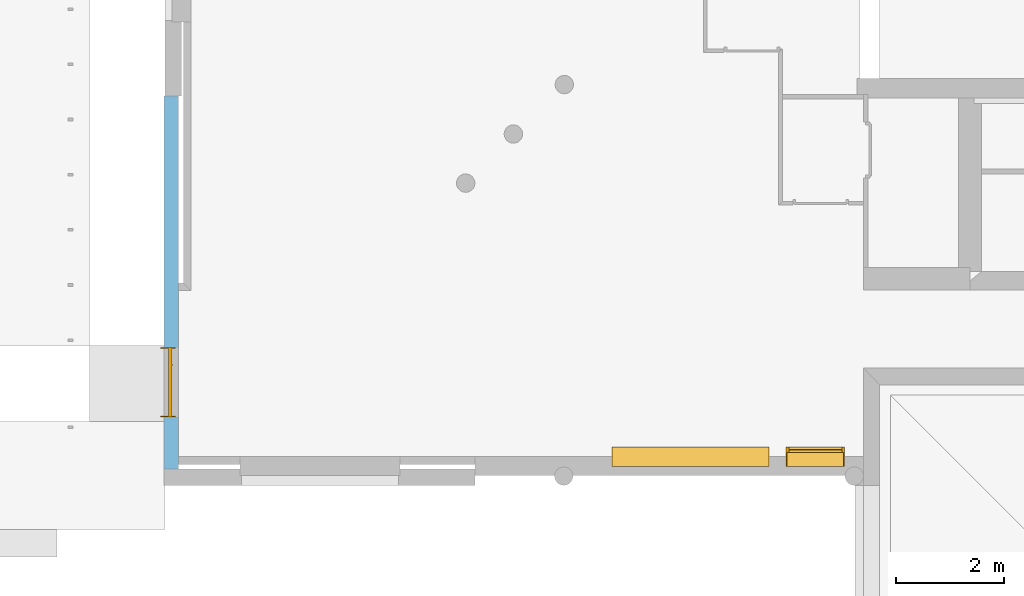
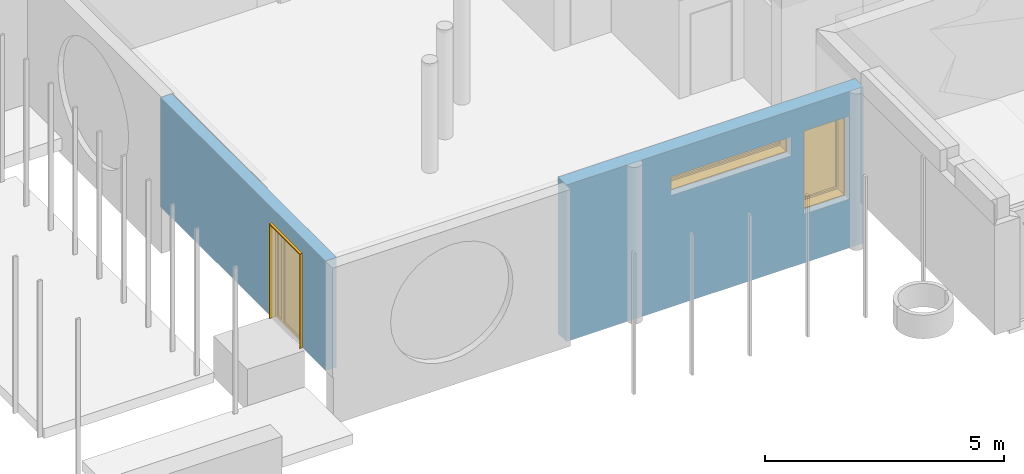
# One storey, part 37 of 64: 2 windows, 1 door, 3 openings, plus 2 elements that do not belong to this part.
"""IFC2X3 building model written with IfcOpenShell, lengths in metres."""

from ifc_helpers import new_model, entity, si_unit, converted_unit, derived_unit, direction, frame, frame_2d, origin, origin_2d_with_axis, place, context, subcontext, project, spatial, rectangle, extrude, faceted_brep, source, transform, mapped, material, layer, layer_set, layer_usage, type_object, type_shapes, element, fill, save


model = new_model("IFC2X3")

# Units and contexts
model_context = context("Model", 3, precision=1e-05, world=origin(), true_north=direction((6.123031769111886e-17, 1.0)))
body_context = subcontext(model_context, "Body", "Model", "MODEL_VIEW")
ifc_project = project(units=[si_unit("LENGTHUNIT", "METRE"), si_unit("AREAUNIT", "SQUARE_METRE"), si_unit("VOLUMEUNIT", "CUBIC_METRE"), converted_unit("PLANEANGLEUNIT", "DEGREE", entity("IfcRatioMeasure", 0.017453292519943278), si_unit("PLANEANGLEUNIT", "RADIAN"), dimensions=[0, 0, 0, 0, 0, 0, 0]), si_unit("MASSUNIT", "GRAM", prefix="KILO"), derived_unit("MASSDENSITYUNIT", [(si_unit("MASSUNIT", "GRAM", prefix="KILO"), 1), (si_unit("LENGTHUNIT", "METRE"), -3)]), derived_unit("MOMENTOFINERTIAUNIT", [(si_unit("LENGTHUNIT", "METRE"), 4)]), si_unit("TIMEUNIT", "SECOND"), si_unit("FREQUENCYUNIT", "HERTZ"), si_unit("THERMODYNAMICTEMPERATUREUNIT", "DEGREE_CELSIUS"), derived_unit("THERMALTRANSMITTANCEUNIT", [(si_unit("MASSUNIT", "GRAM", prefix="KILO"), 1), (si_unit("THERMODYNAMICTEMPERATUREUNIT", "KELVIN"), -1), (si_unit("TIMEUNIT", "SECOND"), -3)]), derived_unit("THERMALCONDUCTANCEUNIT", [(si_unit("MASSUNIT", "GRAM", prefix="KILO"), 1), (si_unit("LENGTHUNIT", "METRE"), 1), (si_unit("THERMODYNAMICTEMPERATUREUNIT", "KELVIN"), -1), (si_unit("TIMEUNIT", "SECOND"), -3)]), derived_unit("VOLUMETRICFLOWRATEUNIT", [(si_unit("LENGTHUNIT", "METRE"), 3), (si_unit("TIMEUNIT", "SECOND"), -1)]), derived_unit("MASSFLOWRATEUNIT", [(si_unit("MASSUNIT", "GRAM", prefix="KILO"), 1), (si_unit("TIMEUNIT", "SECOND"), -1)]), derived_unit("ROTATIONALFREQUENCYUNIT", [(si_unit("TIMEUNIT", "SECOND"), -1)]), si_unit("ELECTRICCURRENTUNIT", "AMPERE"), si_unit("ELECTRICVOLTAGEUNIT", "VOLT"), si_unit("POWERUNIT", "WATT"), si_unit("FORCEUNIT", "NEWTON", prefix="KILO"), si_unit("ILLUMINANCEUNIT", "LUX"), si_unit("LUMINOUSFLUXUNIT", "LUMEN"), si_unit("LUMINOUSINTENSITYUNIT", "CANDELA"), derived_unit("USERDEFINED", [(si_unit("MASSUNIT", "GRAM", prefix="KILO"), -1), (si_unit("LENGTHUNIT", "METRE"), -2), (si_unit("TIMEUNIT", "SECOND"), 3), (si_unit("LUMINOUSFLUXUNIT", "LUMEN"), 1)]), derived_unit("USERDEFINED", [(si_unit("MASSUNIT", "GRAM", prefix="KILO"), 1), (si_unit("LENGTHUNIT", "METRE"), 3), (si_unit("TIMEUNIT", "SECOND"), -3), (si_unit("ELECTRICCURRENTUNIT", "AMPERE"), -2)]), derived_unit("USERDEFINED", [(si_unit("LENGTHUNIT", "METRE"), 2), (si_unit("TIMEUNIT", "SECOND"), -2)]), derived_unit("SOUNDPOWERUNIT", [(si_unit("MASSUNIT", "GRAM", prefix="KILO"), 1), (si_unit("LENGTHUNIT", "METRE"), 2), (si_unit("TIMEUNIT", "SECOND"), -3)]), derived_unit("SOUNDPRESSUREUNIT", [(si_unit("MASSUNIT", "GRAM", prefix="KILO"), 1), (si_unit("LENGTHUNIT", "METRE"), -1), (si_unit("TIMEUNIT", "SECOND"), -2)]), derived_unit("LINEARVELOCITYUNIT", [(si_unit("LENGTHUNIT", "METRE"), 1), (si_unit("TIMEUNIT", "SECOND"), -1)]), si_unit("PRESSUREUNIT", "PASCAL"), derived_unit("USERDEFINED", [(si_unit("LENGTHUNIT", "METRE"), -2), (si_unit("MASSUNIT", "GRAM", prefix="KILO"), 1), (si_unit("TIMEUNIT", "SECOND"), -2)]), derived_unit("LINEARFORCEUNIT", [(si_unit("MASSUNIT", "GRAM", prefix="KILO"), 1), (si_unit("LENGTHUNIT", "METRE"), 1), (si_unit("TIMEUNIT", "SECOND"), -2), (si_unit("LENGTHUNIT", "METRE"), -1)]), derived_unit("PLANARFORCEUNIT", [(si_unit("MASSUNIT", "GRAM", prefix="KILO"), 1), (si_unit("LENGTHUNIT", "METRE"), 1), (si_unit("TIMEUNIT", "SECOND"), -2), (si_unit("LENGTHUNIT", "METRE"), -2)]), derived_unit("SPECIFICHEATCAPACITYUNIT", [(si_unit("LENGTHUNIT", "METRE"), 2), (si_unit("TIMEUNIT", "SECOND"), -2), (si_unit("THERMODYNAMICTEMPERATUREUNIT", "KELVIN"), -1)]), derived_unit("VAPORPERMEABILITYUNIT", [(si_unit("TIMEUNIT", "SECOND"), 1), (si_unit("LENGTHUNIT", "METRE"), -1)]), derived_unit("DYNAMICVISCOSITYUNIT", [(si_unit("MASSUNIT", "GRAM", prefix="KILO"), 1), (si_unit("LENGTHUNIT", "METRE"), -1), (si_unit("TIMEUNIT", "SECOND"), -1)]), derived_unit("THERMALEXPANSIONCOEFFICIENTUNIT", [(si_unit("THERMODYNAMICTEMPERATUREUNIT", "KELVIN"), -1)])], contexts=[model_context])

# Site, building, storey
site_placement = place(None, origin())
site = spatial("IfcSite", under=ifc_project, at=site_placement, Name="Default", CompositionType="ELEMENT")
building_placement = place(site_placement, origin())
building = spatial("IfcBuilding", under=site, at=building_placement, CompositionType="ELEMENT")
storey_placement = place(building_placement, origin())
storey = spatial("IfcBuildingStorey", under=building, at=storey_placement, Name="REZ-DE-CHAUSSÉE", CompositionType="ELEMENT", Elevation=0.0)

# Wall, openings, windows
ifc_material_1 = material(Name="Bois - Pin granuleux horizontal")
ifc_layer_1 = layer(ifc_material_1, 0.031999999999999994)
ifc_material_2 = material(Name="Air - Vide d'air")
ifc_layer_2 = layer(ifc_material_2, 0.054)
ifc_material_3 = material(Name="Bois - Panneaux de particules")
ifc_layer_3 = layer(ifc_material_3, 0.022)
ifc_material_4 = material(Name="Isolation - Fibre de verre")
ifc_layer_4 = layer(ifc_material_4, 0.12)
ifc_layer_5 = layer(ifc_material_3, 0.022)
ifc_layer_6 = layer(ifc_material_4, 0.08699999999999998)
ifc_material_5 = material(Name="Plâtre - Plaques de plâtre")
ifc_layer_7 = layer(ifc_material_5, 0.013)
ifc_layer_set_1 = layer_set([ifc_layer_1, ifc_layer_2, ifc_layer_3, ifc_layer_4, ifc_layer_5, ifc_layer_6, ifc_layer_7], Name="Mur de base:ABA MOB ITI bardage 350")
ifc_layer_usage_1 = layer_usage(ifc_layer_set_1, "AXIS2", "NEGATIVE", 0.17500000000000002)
wall_type_1 = type_object("IfcWallType", Name="Mur de base:ABA MOB ITI bardage 350", PredefinedType="STANDARD", material=ifc_layer_set_1)
wall_1_placement = place(storey_placement, frame((102.66075227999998, 11.732209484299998, -1.2), z_axis=(0.0, 0.0, 1.0), x_axis=(-1.0, 0.0, 0.0)))
wall_1 = element("IfcWallStandardCase", 1, at=wall_1_placement, inside=storey, type_object=wall_type_1, material=ifc_layer_usage_1, Name="MurExt-005", ObjectType="Mur de base:ABA MOB ITI bardage 350", context=body_context, shape_type="SweptSolid", body=[
    extrude(rectangle(XDim=7.179999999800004, YDim=0.3500000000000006, at=frame_2d((3.589999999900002, -1.0824674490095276e-15), x_axis=(-1.0, 0.0))), origin(), (0.0, 0.0, 1.0), 4.0),
])
opening_1_placement = place(wall_1_placement, frame((102.66075227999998, 11.732209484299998, 1.2), z_axis=(0.0, 0.0, 1.0), x_axis=(-1.0, 0.0, 0.0)))
opening_1 = element("IfcOpeningElement", 2, at=opening_1_placement, cuts=wall_1, Name="MurExt-005", ObjectType="Opening", context=body_context, shape_type="SweptSolid", body=[
    extrude(rectangle(XDim=0.48, YDim=2.899999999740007, at=frame_2d((0.0, 1.3877787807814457e-16), x_axis=(0.0, 1.0))), frame((99.46075228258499, 12.085709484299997, 1.89), z_axis=(0.0, -1.0, 0.0), x_axis=(1.0, 0.0, 0.0)), (0.0, 0.0, 1.0), 0.7069999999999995),
])
opening_2_placement = place(wall_1_placement, frame((102.66075227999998, 11.732209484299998, 1.2), z_axis=(0.0, 0.0, 1.0), x_axis=(-1.0, 0.0, 0.0)))
opening_2 = element("IfcOpeningElement", 3, at=opening_2_placement, cuts=wall_1, Name="MurExt-005", ObjectType="Opening", context=body_context, shape_type="SweptSolid", body=[
    extrude(rectangle(XDim=2.12, YDim=1.0800000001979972, at=frame_2d((0.0, 0.0), x_axis=(0.0, 1.0))), frame((101.770752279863, 12.085709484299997, 1.1099999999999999), z_axis=(0.0, -1.0, 0.0), x_axis=(1.0, 0.0, 0.0)), (0.0, 0.0, 1.0), 0.7069999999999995),
])
ifc_material_6 = material(Name="Peinture - Anthracite")
window_style_1 = type_object("IfcWindowStyle", Name="Fen-003", ConstructionType="NOTDEFINED", OperationType="NOTDEFINED", ParameterTakesPrecedence=False, Sizeable=False, material=ifc_material_6)
shared_shape_1 = source(origin(), body_context, "Body", "Brep", [
    faceted_brep([(0.0, -0.7034999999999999, 0.0), (0.0, -0.6034999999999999, 0.0), (2.8999999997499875, -0.6034999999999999, 0.0), (2.8999999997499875, -0.7034999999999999, 0.0), (0.0, -0.7034999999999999, 0.48), (0.0, -0.6034999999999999, 0.48), (2.8999999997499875, -0.6034999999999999, 0.48), (0.049999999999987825, -0.6034999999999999, 0.06), (2.849999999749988, -0.6034999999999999, 0.06), (2.849999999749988, -0.6034999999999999, 0.42999999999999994), (0.049999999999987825, -0.6034999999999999, 0.42999999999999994), (2.8999999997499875, -0.7034999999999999, 0.48), (0.049999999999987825, -0.7034999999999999, 0.06), (0.049999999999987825, -0.7034999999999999, 0.42999999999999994), (2.849999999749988, -0.7034999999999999, 0.42999999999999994), (2.849999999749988, -0.7034999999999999, 0.06), (0.049999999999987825, -0.6585, 0.06009999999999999), (0.049999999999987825, -0.6485, 0.06009999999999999), (2.849999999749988, -0.6485, 0.06009999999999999), (2.849999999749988, -0.6585, 0.06009999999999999), (0.049999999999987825, -0.6585, 0.42999999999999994), (0.049999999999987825, -0.6485, 0.42999999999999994), (2.849999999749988, -0.6485, 0.42999999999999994), (2.849999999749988, -0.6585, 0.42999999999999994), (1.4249999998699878, -0.6585, 0.06), (1.4249999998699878, -0.6585, 0.42999999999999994), (1.4749999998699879, -0.6585, 0.42999999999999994), (1.4749999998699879, -0.6585, 0.06), (1.4249999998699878, -0.6659999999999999, 0.06), (1.4249999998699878, -0.6659999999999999, 0.42999999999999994), (1.4749999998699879, -0.6659999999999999, 0.42999999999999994), (1.4749999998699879, -0.6659999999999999, 0.06), (1.4749999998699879, -0.6485, 0.42999999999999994), (1.4249999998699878, -0.6485, 0.42999999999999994), (1.4249999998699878, -0.6485, 0.06), (1.4749999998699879, -0.6485, 0.06), (1.4749999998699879, -0.6409999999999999, 0.42999999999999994), (1.4249999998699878, -0.6409999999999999, 0.42999999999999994), (1.4249999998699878, -0.6409999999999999, 0.06), (1.4749999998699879, -0.6409999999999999, 0.05999999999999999), (0.0, -0.6034999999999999, 0.46), (2.8999999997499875, -0.6034999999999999, 0.46), (0.0, -0.3435, 0.46), (2.8999999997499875, -0.3435, 0.46), (2.8999999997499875, -0.3435, 0.48), (0.0, -0.3435, 0.48), (0.019999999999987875, -0.6034999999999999, 0.019999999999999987), (0.019999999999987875, -0.3435, 0.019999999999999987), (0.019999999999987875, -0.3435, 0.46), (0.019999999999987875, -0.6034999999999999, 0.46), (0.0, -0.6034999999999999, 0.019999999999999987), (0.0, -0.3435, 0.019999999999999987), (2.8999999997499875, -0.6034999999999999, 0.019999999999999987), (2.8999999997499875, -0.3435, 0.019999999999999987), (2.8799999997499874, -0.6034999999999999, 0.019999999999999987), (2.8799999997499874, -0.3435, 0.019999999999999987), (2.8799999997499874, -0.34349999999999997, 0.46), (2.8799999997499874, -0.6034999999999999, 0.46), (0.0, -0.3435, 0.0), (2.8999999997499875, -0.3435, 0.0)], [[[0, 1, 2, 3]], [[4, 5, 1, 0]], [[1, 5, 6, 2], [7, 8, 9, 10]], [[3, 2, 6, 11]], [[0, 3, 11, 4], [12, 13, 14, 15]], [[11, 6, 5, 4]], [[15, 8, 7, 12]], [[14, 9, 8, 15]], [[13, 10, 9, 14]], [[12, 7, 10, 13]], [[16, 17, 18, 19]], [[20, 21, 17, 16]], [[17, 21, 22, 18]], [[19, 18, 22, 23]], [[16, 19, 23, 20]], [[23, 22, 21, 20]], [[24, 25, 26, 27]], [[24, 28, 29, 25]], [[25, 29, 30, 26]], [[26, 30, 31, 27]], [[27, 31, 28, 24]], [[31, 30, 29, 28]], [[32, 33, 34, 35]], [[36, 37, 33, 32]], [[37, 38, 34, 33]], [[38, 39, 35, 34]], [[39, 36, 32, 35]], [[37, 36, 39, 38]], [[40, 41, 6, 5]], [[40, 42, 43, 41]], [[41, 43, 44, 6]], [[5, 6, 44, 45]], [[42, 40, 5, 45]], [[43, 42, 45, 44]], [[40, 5, 6, 41]], [[42, 45, 44, 43]], [[46, 47, 48, 49]], [[46, 50, 51, 47]], [[47, 51, 42, 48]], [[49, 48, 42, 40]], [[50, 46, 49, 40]], [[51, 50, 40, 42]], [[52, 53, 43, 41]], [[52, 54, 55, 53]], [[53, 55, 56, 43]], [[41, 43, 56, 57]], [[54, 52, 41, 57]], [[55, 54, 57, 56]], [[1, 2, 52, 50]], [[1, 58, 59, 2]], [[2, 59, 53, 52]], [[50, 52, 53, 51]], [[58, 1, 50, 51]], [[59, 58, 51, 53]], [[1, 50, 52, 2]], [[58, 51, 53, 59]]]),
])
type_shapes(window_style_1, [shared_shape_1])
window_1_placement = place(opening_1_placement, frame((100.910752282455, 11.378709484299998, 1.6500000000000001), z_axis=(0.0, 0.0, 1.0), x_axis=(-1.0, 0.0, 0.0)))
window_1 = element("IfcWindow", 4, at=window_1_placement, inside=storey, type_object=window_style_1, material=ifc_material_6, Name="Fen-003 139978:Fen-003 139978", ObjectType="Fen-003 139978:Fen-003 139978", OverallHeight=0.48, OverallWidth=2.899999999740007, context=body_context, shape_type="MappedRepresentation", body=[
    mapped(shared_shape_1, transform((0.0, 0.0, 0.0), scale=1.0)),
])
fill(opening_1, window_1)
window_style_2 = type_object("IfcWindowStyle", Name="Fen-003", ConstructionType="NOTDEFINED", OperationType="NOTDEFINED", ParameterTakesPrecedence=False, Sizeable=False, material=ifc_material_6)
shared_shape_2 = source(origin(), body_context, "Body", "Brep", [
    faceted_brep([(0.0, -0.7034999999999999, 0.0), (0.0, -0.6034999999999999, 0.0), (1.0800000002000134, -0.6034999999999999, 0.0), (1.0800000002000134, -0.7034999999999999, 0.0), (0.0, -0.7034999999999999, 2.12), (0.0, -0.6034999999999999, 2.12), (1.0800000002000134, -0.6034999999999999, 2.12), (0.05000000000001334, -0.6034999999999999, 0.06000000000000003), (1.0300000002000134, -0.6034999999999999, 0.06000000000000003), (1.0300000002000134, -0.6034999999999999, 2.07), (0.05000000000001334, -0.6034999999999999, 2.07), (1.0800000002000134, -0.7034999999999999, 2.12), (0.05000000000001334, -0.7034999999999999, 0.06000000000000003), (0.05000000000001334, -0.7034999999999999, 2.07), (1.0300000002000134, -0.7034999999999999, 2.07), (1.0300000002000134, -0.7034999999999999, 0.06000000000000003), (0.05000000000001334, -0.6585, 0.06010000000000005), (0.05000000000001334, -0.6485, 0.06010000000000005), (1.0300000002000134, -0.6485, 0.06010000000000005), (1.0300000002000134, -0.6585, 0.06010000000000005), (0.05000000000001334, -0.6585, 2.07), (0.05000000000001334, -0.6485, 2.07), (1.0300000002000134, -0.6485, 2.07), (1.0300000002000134, -0.6585, 2.07), (0.0, -0.6034999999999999, 2.1), (1.0800000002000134, -0.6034999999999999, 2.1), (0.0, -0.3435, 2.1), (1.0800000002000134, -0.3435, 2.1), (1.0800000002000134, -0.3435, 2.12), (0.0, -0.3435, 2.12), (0.02000000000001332, -0.6034999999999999, 0.020000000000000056), (0.02000000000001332, -0.3435, 0.020000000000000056), (0.02000000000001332, -0.3435, 2.1), (0.02000000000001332, -0.6034999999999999, 2.1), (0.0, -0.6034999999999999, 0.020000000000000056), (0.0, -0.3435, 0.020000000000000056), (1.0800000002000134, -0.6034999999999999, 0.020000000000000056), (1.0800000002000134, -0.3435, 0.020000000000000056), (1.0600000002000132, -0.6034999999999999, 0.020000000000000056), (1.0600000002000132, -0.3435, 0.020000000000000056), (1.0600000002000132, -0.34349999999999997, 2.1), (1.0600000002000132, -0.6034999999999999, 2.1), (0.0, -0.3435, 0.0), (1.0800000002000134, -0.3435, 0.0)], [[[0, 1, 2, 3]], [[4, 5, 1, 0]], [[1, 5, 6, 2], [7, 8, 9, 10]], [[3, 2, 6, 11]], [[0, 3, 11, 4], [12, 13, 14, 15]], [[11, 6, 5, 4]], [[15, 8, 7, 12]], [[14, 9, 8, 15]], [[13, 10, 9, 14]], [[12, 7, 10, 13]], [[16, 17, 18, 19]], [[20, 21, 17, 16]], [[17, 21, 22, 18]], [[19, 18, 22, 23]], [[16, 19, 23, 20]], [[23, 22, 21, 20]], [[24, 25, 6, 5]], [[24, 26, 27, 25]], [[25, 27, 28, 6]], [[5, 6, 28, 29]], [[26, 24, 5, 29]], [[27, 26, 29, 28]], [[24, 5, 6, 25]], [[26, 29, 28, 27]], [[30, 31, 32, 33]], [[30, 34, 35, 31]], [[31, 35, 26, 32]], [[33, 32, 26, 24]], [[34, 30, 33, 24]], [[35, 34, 24, 26]], [[36, 37, 27, 25]], [[36, 38, 39, 37]], [[37, 39, 40, 27]], [[25, 27, 40, 41]], [[38, 36, 25, 41]], [[39, 38, 41, 40]], [[1, 2, 36, 34]], [[1, 42, 43, 2]], [[2, 43, 37, 36]], [[34, 36, 37, 35]], [[42, 1, 34, 35]], [[43, 42, 35, 37]], [[1, 34, 36, 2]], [[42, 35, 37, 43]]]),
])
type_shapes(window_style_2, [shared_shape_2])
window_2_placement = place(opening_2_placement, frame((102.310752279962, 11.378709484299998, 0.05000000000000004), z_axis=(0.0, 0.0, 1.0), x_axis=(-1.0, 0.0, 0.0)))
window_2 = element("IfcWindow", 5, at=window_2_placement, inside=storey, type_object=window_style_2, material=ifc_material_6, Name="Fen-003 140448:Fen-003 140448", ObjectType="Fen-003 140448:Fen-003 140448", OverallHeight=2.12, OverallWidth=1.0800000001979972, context=body_context, shape_type="MappedRepresentation", body=[
    mapped(shared_shape_2, transform((0.0, 0.0, 0.0), scale=1.0)),
])
fill(opening_2, window_2)

# Wall, opening, door
ifc_layer_8 = layer(ifc_material_1, 0.02)
ifc_layer_9 = layer(ifc_material_3, 0.0125)
ifc_layer_10 = layer(ifc_material_4, 0.145)
ifc_layer_11 = layer(ifc_material_3, 0.0125)
ifc_layer_12 = layer(ifc_material_4, 0.067)
ifc_layer_13 = layer(ifc_material_5, 0.013)
ifc_layer_set_2 = layer_set([ifc_layer_8, ifc_layer_9, ifc_layer_10, ifc_layer_11, ifc_layer_12, ifc_layer_13], Name="Mur de base:ABA MOB ITI costière 270")
ifc_layer_usage_2 = layer_usage(ifc_layer_set_2, "AXIS2", "NEGATIVE", 0.13499999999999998)
wall_type_2 = type_object("IfcWallType", Name="Mur de base:ABA MOB ITI costière 270", PredefinedType="STANDARD", material=ifc_layer_set_2)
wall_2_placement = place(storey_placement, frame((89.8657522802, 11.677209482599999, 0.0), z_axis=(0.0, 0.0, 1.0), x_axis=(0.0, 1.0, 0.0)))
wall_2 = element("IfcWallStandardCase", 6, at=wall_2_placement, inside=storey, type_object=wall_type_2, material=ifc_layer_usage_2, Name="MurExt-007", ObjectType="Mur de base:ABA MOB ITI costière 270", context=body_context, shape_type="SweptSolid", body=[
    extrude(rectangle(XDim=6.9000000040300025, YDim=0.2700000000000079, at=frame_2d((3.4500000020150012, 0.0), x_axis=(-1.0, 0.0))), origin(), (0.0, 0.0, 1.0), 2.8),
])
opening_3_placement = place(wall_2_placement, frame((-11.677209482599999, 89.8657522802, 0.0), z_axis=(0.0, 0.0, 1.0), x_axis=(0.0, -1.0, 0.0)))
opening_3 = element("IfcOpeningElement", 7, at=opening_3_placement, cuts=wall_2, Name="MurExt-007", ObjectType="Opening", context=body_context, shape_type="SweptSolid", body=[
    extrude(rectangle(XDim=2.4199999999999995, YDim=1.2900000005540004, at=origin_2d_with_axis()), frame((90.2192522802, 13.28220948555, 1.2099999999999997), z_axis=(-1.0, 0.0, 0.0), x_axis=(0.0, 0.0, -1.0)), (0.0, 0.0, 1.0), 0.7069999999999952),
])
door_style = type_object("IfcDoorStyle", Name="Por-002", ConstructionType="NOTDEFINED", OperationType="DOUBLE_DOOR_SINGLE_SWING", ParameterTakesPrecedence=False, Sizeable=False, material=ifc_material_6)
shared_shape_3 = source(origin(), body_context, "Body", "Brep", [
    faceted_brep([(1.2900000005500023, 0.3034999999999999, 0.0), (0.0, 0.3034999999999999, 0.0), (0.0, 0.3534999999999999, 0.0), (1.2900000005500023, 0.3534999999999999, 0.0), (1.2900000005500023, 0.3034999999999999, 2.4199999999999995), (0.0, 0.3034999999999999, 2.4199999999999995), (1.2400000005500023, 0.3034999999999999, 0.0), (0.05000000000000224, 0.3034999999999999, 0.0), (0.05000000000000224, 0.3034999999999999, 2.37), (1.2400000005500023, 0.3034999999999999, 2.37), (0.0, 0.3534999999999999, 2.4199999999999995), (1.2900000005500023, 0.3534999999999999, 2.4199999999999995), (1.2400000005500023, 0.3534999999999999, 0.0), (1.2400000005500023, 0.3534999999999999, 2.37), (0.05000000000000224, 0.3534999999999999, 2.37), (0.05000000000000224, 0.3534999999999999, 0.0), (0.3199000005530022, 0.3034999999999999, 0.0), (0.3199000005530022, 0.3034999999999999, 2.37), (0.10000000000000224, 0.3034999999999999, 2.32), (0.27000000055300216, 0.3034999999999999, 2.32), (0.27000000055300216, 0.3034999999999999, 0.07000000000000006), (0.10000000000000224, 0.3034999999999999, 0.07000000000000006), (0.3199000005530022, 0.3534999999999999, 0.0), (0.3199000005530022, 0.3534999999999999, 2.37), (0.10000000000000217, 0.3534999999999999, 2.32), (0.27000000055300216, 0.3534999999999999, 2.32), (0.27000000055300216, 0.3534999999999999, 0.07000000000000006), (0.10000000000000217, 0.3534999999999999, 0.07), (0.05000000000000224, 0.3284999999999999, 0.0), (0.05000000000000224, 0.3284999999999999, 2.37), (0.3199000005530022, 0.3284999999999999, 0.0), (0.3199000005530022, 0.3284999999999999, 2.37), (0.27000000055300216, 0.32599999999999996, 0.07), (0.10000000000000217, 0.32599999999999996, 0.07), (0.10000000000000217, 0.3309999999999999, 0.07), (0.27000000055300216, 0.3309999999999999, 0.07), (0.27000000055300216, 0.32599999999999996, 2.32), (0.10000000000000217, 0.32599999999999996, 2.32), (0.10000000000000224, 0.3309999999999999, 2.32), (0.27000000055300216, 0.3309999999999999, 2.32), (0.3075000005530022, 0.35359999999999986, 0.002999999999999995), (0.3075000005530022, 0.35359999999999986, 2.367), (0.3075000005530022, 0.370166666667, 2.367), (0.3075000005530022, 0.370166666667, 0.002999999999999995), (0.33250000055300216, 0.35359999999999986, 0.002999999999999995), (0.33250000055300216, 0.35359999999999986, 2.367), (0.33250000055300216, 0.370166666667, 2.367), (0.33250000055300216, 0.370166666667, 0.002999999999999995), (0.3200000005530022, 0.3034999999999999, 2.37), (0.3200000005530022, 0.3034999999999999, 0.0), (1.190000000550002, 0.3034999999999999, 2.32), (1.190000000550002, 0.3034999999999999, 0.07000000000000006), (0.3700000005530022, 0.3034999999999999, 0.07000000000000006), (0.3700000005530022, 0.3034999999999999, 2.32), (0.3200000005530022, 0.3534999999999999, 2.37), (0.3200000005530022, 0.3534999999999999, 0.0), (1.190000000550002, 0.3534999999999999, 2.32), (1.190000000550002, 0.3534999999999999, 0.07000000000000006), (0.3700000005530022, 0.3534999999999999, 0.07), (0.3700000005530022, 0.3534999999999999, 2.32), (0.3200000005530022, 0.3284999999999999, 2.37), (0.3200000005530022, 0.3284999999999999, 0.0), (1.2400000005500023, 0.3284999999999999, 2.37), (1.2400000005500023, 0.3284999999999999, 0.0), (0.3700000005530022, 0.32599999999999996, 0.07), (0.3700000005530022, 0.3309999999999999, 0.07), (1.190000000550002, 0.3309999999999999, 0.07), (1.190000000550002, 0.32599999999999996, 0.07), (0.3700000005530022, 0.32599999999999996, 2.32), (0.3700000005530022, 0.3309999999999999, 2.32), (1.190000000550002, 0.3309999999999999, 2.32), (1.190000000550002, 0.32599999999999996, 2.32), (1.2900000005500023, 0.3534999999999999, 2.3999999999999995), (0.0, 0.3534999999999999, 2.3999999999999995), (1.2900000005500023, 0.43349999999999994, 2.3999999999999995), (1.2900000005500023, 0.43349999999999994, 2.4199999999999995), (0.0, 0.43349999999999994, 2.4199999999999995), (0.0, 0.43349999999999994, 2.3999999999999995), (1.2700000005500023, 0.3534999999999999, 0.0), (1.2700000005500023, 0.3534999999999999, 2.3999999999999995), (1.2700000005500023, 0.43349999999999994, 2.3999999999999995), (1.2700000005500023, 0.43349999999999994, 0.0), (1.2900000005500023, 0.43349999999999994, 0.0), (0.0, 0.43349999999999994, 0.0), (0.02000000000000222, 0.3534999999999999, 0.0), (0.02000000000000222, 0.3534999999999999, 2.3999999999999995), (0.02000000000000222, 0.43349999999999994, 2.3999999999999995), (0.02000000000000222, 0.43349999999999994, 0.0), (1.2900000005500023, 0.3034999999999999, 2.3999999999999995), (0.0, 0.3034999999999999, 2.3999999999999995), (1.2900000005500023, 0.16349999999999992, 2.3999999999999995), (0.0, 0.16349999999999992, 2.3999999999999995), (0.0, 0.16349999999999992, 2.4199999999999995), (1.2900000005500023, 0.16349999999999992, 2.4199999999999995), (0.02000000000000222, 0.16349999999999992, 0.0), (0.02000000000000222, 0.1534999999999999, 0.0), (0.0, 0.1534999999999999, 0.0), (0.0, 0.16349999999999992, 0.0), (0.02000000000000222, 0.16349999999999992, 2.3999999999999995), (0.02000000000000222, 0.1534999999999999, 2.3999999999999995), (1.2700000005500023, 0.15349999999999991, 2.3999999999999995), (1.2700000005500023, 0.15349999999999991, 0.0), (1.2900000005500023, 0.15349999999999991, 0.0), (1.2900000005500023, 0.15349999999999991, 2.3999999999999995), (1.2900000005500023, 0.15349999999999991, 2.4199999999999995), (0.0, 0.15349999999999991, 2.4199999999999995), (0.0, 0.15349999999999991, 2.3999999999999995), (1.2900000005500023, 0.16349999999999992, 0.0), (1.2700000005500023, 0.16349999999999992, 0.0), (1.2700000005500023, 0.16349999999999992, 2.3999999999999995), (1.2700000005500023, 0.3034999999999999, 0.0), (1.2700000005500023, 0.3034999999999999, 2.3999999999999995), (0.02000000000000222, 0.3034999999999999, 0.0), (0.02000000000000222, 0.3034999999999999, 2.3999999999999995)], [[[0, 1, 2, 3]], [[0, 4, 5, 1], [6, 7, 8, 9]], [[1, 5, 10, 2]], [[3, 2, 10, 11], [12, 13, 14, 15]], [[4, 0, 3, 11]], [[5, 4, 11, 10]], [[7, 6, 12, 15]], [[8, 7, 15, 14]], [[9, 8, 14, 13]], [[6, 9, 13, 12]], [[8, 7, 16, 17], [18, 19, 20, 21]], [[7, 8, 14, 15]], [[16, 7, 15, 22]], [[16, 22, 23, 17]], [[8, 17, 23, 14]], [[19, 18, 24, 25]], [[26, 20, 19, 25]], [[27, 21, 20, 26]], [[18, 21, 27, 24]], [[22, 15, 14, 23], [27, 26, 25, 24]], [[7, 28, 29, 8]], [[30, 28, 7, 16]], [[31, 29, 8, 17]], [[28, 15, 14, 29]], [[22, 15, 28, 30]], [[23, 14, 29, 31]], [[32, 33, 34, 35]], [[32, 36, 37, 33]], [[33, 37, 38, 34]], [[35, 34, 38, 39]], [[36, 32, 35, 39]], [[37, 36, 39, 38]], [[40, 41, 42, 43]], [[44, 45, 41, 40]], [[41, 45, 46, 42]], [[43, 42, 46, 47]], [[40, 43, 47, 44]], [[47, 46, 45, 44]], [[9, 48, 49, 6], [50, 51, 52, 53]], [[9, 13, 54, 48]], [[54, 55, 49, 48]], [[55, 12, 6, 49]], [[6, 12, 13, 9]], [[50, 56, 57, 51]], [[57, 58, 52, 51]], [[58, 59, 53, 52]], [[53, 59, 56, 50]], [[54, 13, 12, 55], [57, 56, 59, 58]], [[49, 48, 60, 61]], [[6, 9, 62, 63]], [[49, 6, 63, 61]], [[48, 9, 62, 60]], [[61, 60, 54, 55]], [[63, 62, 13, 12]], [[61, 63, 12, 55]], [[60, 62, 13, 54]], [[64, 65, 66, 67]], [[68, 69, 65, 64]], [[65, 69, 70, 66]], [[67, 66, 70, 71]], [[64, 67, 71, 68]], [[71, 70, 69, 68]], [[72, 11, 10, 73]], [[74, 75, 11, 72]], [[11, 75, 76, 10]], [[73, 10, 76, 77]], [[72, 73, 77, 74]], [[77, 76, 75, 74]], [[78, 79, 80, 81]], [[3, 72, 79, 78]], [[79, 72, 74, 80]], [[81, 80, 74, 82]], [[78, 81, 82, 3]], [[82, 74, 72, 3]], [[2, 73, 77, 83]], [[84, 85, 73, 2]], [[73, 85, 86, 77]], [[83, 77, 86, 87]], [[2, 83, 87, 84]], [[87, 86, 85, 84]], [[88, 89, 5, 4]], [[88, 90, 91, 89]], [[89, 91, 92, 5]], [[4, 5, 92, 93]], [[90, 88, 4, 93]], [[91, 90, 93, 92]], [[94, 95, 96, 97]], [[98, 99, 95, 94]], [[96, 95, 99, 100, 101, 102, 103, 104, 105, 106]], [[97, 96, 106, 91]], [[98, 94, 97, 91, 92, 93, 90, 107, 108, 109]], [[109, 100, 99, 98]], [[108, 101, 100, 109]], [[107, 102, 101, 108]], [[90, 103, 102, 107]], [[93, 104, 103, 90]], [[92, 105, 104, 93]], [[91, 106, 105, 92]], [[94, 97, 92, 93, 107, 108, 109, 98]], [[110, 108, 109, 111]], [[110, 0, 107, 108]], [[108, 107, 90, 109]], [[111, 109, 90, 88]], [[0, 110, 111, 88]], [[107, 0, 88, 90]], [[1, 97, 91, 89]], [[1, 112, 94, 97]], [[97, 94, 98, 91]], [[89, 91, 98, 113]], [[112, 1, 89, 113]], [[94, 112, 113, 98]]]),
])
type_shapes(door_style, [shared_shape_3])
door_placement = place(opening_3_placement, frame((89.5122522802, 13.927209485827, 0.0), z_axis=(0.0, 0.0, 1.0), x_axis=(0.0, -1.0, 0.0)))
door = element("IfcDoor", 8, at=door_placement, inside=storey, type_object=door_style, material=ifc_material_6, Name="Por-002 139030:Por-002 139030", ObjectType="Por-002 139030:Por-002 139030", OverallHeight=2.4199999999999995, OverallWidth=1.2900000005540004, context=body_context, shape_type="MappedRepresentation", body=[
    mapped(shared_shape_3, transform((0.0, 0.0, 0.0), scale=1.0)),
])
fill(opening_3, door)

save(model, "model.ifc")
